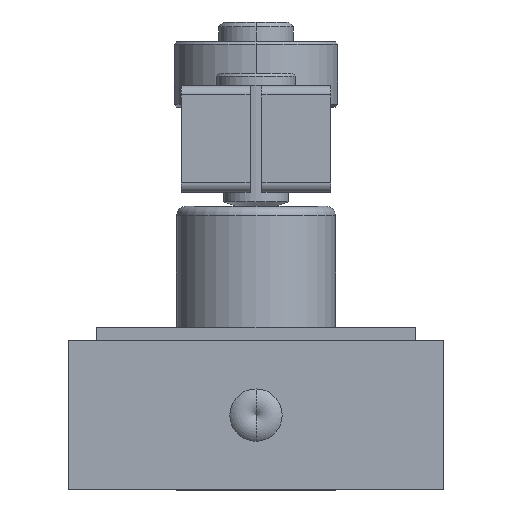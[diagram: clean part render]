
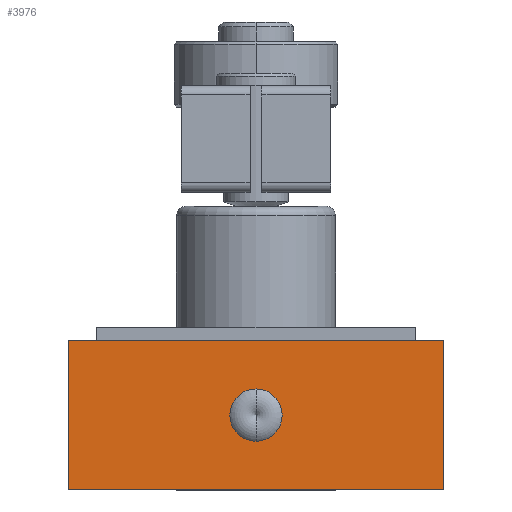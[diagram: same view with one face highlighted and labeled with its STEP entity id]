
A CAD part, front view. The second image highlights one B-rep face of the part: STEP entity #3976.
In plain terms, the highlighted planar face has unit normal (0, -1, 0).
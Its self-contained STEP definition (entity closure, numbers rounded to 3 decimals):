
#3054 = VERTEX_POINT ( 'NONE', #16767 ) ;
#3075 = VERTEX_POINT ( 'NONE', #16868 ) ;
#3775 = EDGE_CURVE ( 'NONE', #3075, #3054, #17038, .T. ) ;
#3860 = VERTEX_POINT ( 'NONE', #17113 ) ;
#3862 = EDGE_CURVE ( 'NONE', #3860, #3867, #17112, .T. ) ;
#3867 = VERTEX_POINT ( 'NONE', #17018 ) ;
#3976 = ADVANCED_FACE ( 'NONE', ( #17308, #17307 ), #17348, .T. ) ;
#3978 = EDGE_LOOP ( 'NONE', ( #3979, #3981, #4030, #4034 ) ) ;
#3979 = ORIENTED_EDGE ( 'NONE', *, *, #3862, .F. ) ;
#3981 = ORIENTED_EDGE ( 'NONE', *, *, #4027, .F. ) ;
#4027 = EDGE_CURVE ( 'NONE', #4029, #3860, #17234, .T. ) ;
#4029 = VERTEX_POINT ( 'NONE', #17230 ) ;
#4030 = ORIENTED_EDGE ( 'NONE', *, *, #4031, .T. ) ;
#4031 = EDGE_CURVE ( 'NONE', #4029, #4032, #17229, .T. ) ;
#4032 = VERTEX_POINT ( 'NONE', #17225 ) ;
#4034 = ORIENTED_EDGE ( 'NONE', *, *, #4036, .T. ) ;
#4036 = EDGE_CURVE ( 'NONE', #4032, #3867, #17223, .T. ) ;
#4042 = EDGE_LOOP ( 'NONE', ( #4043, #4044 ) ) ;
#4043 = ORIENTED_EDGE ( 'NONE', *, *, #3775, .T. ) ;
#4044 = ORIENTED_EDGE ( 'NONE', *, *, #4045, .T. ) ;
#4045 = EDGE_CURVE ( 'NONE', #3054, #3075, #17216, .T. ) ;
#16767 = CARTESIAN_POINT ( 'NONE',  ( 0., -51.5, -10.798 ) ) ;
#16868 = CARTESIAN_POINT ( 'NONE',  ( 0., -51.5, -5.204 ) ) ;
#17018 = CARTESIAN_POINT ( 'NONE',  ( 20.035, -51.5, 0. ) ) ;
#17035 = DIRECTION ( 'NONE',  ( 0., 0., 1. ) ) ;
#17036 = DIRECTION ( 'NONE',  ( 0., 1., 0. ) ) ;
#17037 = AXIS2_PLACEMENT_3D ( 'NONE', #17043, #17036, #17035 ) ;
#17038 = CIRCLE ( 'NONE', #17037, 2.797 ) ;
#17043 = CARTESIAN_POINT ( 'NONE',  ( 0., -51.5, -8.001 ) ) ;
#17109 = DIRECTION ( 'NONE',  ( 1., 0., 0. ) ) ;
#17110 = VECTOR ( 'NONE', #17109, 1000. ) ;
#17111 = CARTESIAN_POINT ( 'NONE',  ( -20.035, -51.5, 0. ) ) ;
#17112 = LINE ( 'NONE', #17111, #17110 ) ;
#17113 = CARTESIAN_POINT ( 'NONE',  ( -20.035, -51.5, 0. ) ) ;
#17213 = DIRECTION ( 'NONE',  ( 0., 0., 1. ) ) ;
#17214 = DIRECTION ( 'NONE',  ( 0., 1., 0. ) ) ;
#17215 = AXIS2_PLACEMENT_3D ( 'NONE', #17224, #17214, #17213 ) ;
#17216 = CIRCLE ( 'NONE', #17215, 2.797 ) ;
#17220 = DIRECTION ( 'NONE',  ( 0., 0., 1. ) ) ;
#17221 = VECTOR ( 'NONE', #17220, 1000. ) ;
#17222 = CARTESIAN_POINT ( 'NONE',  ( 20.035, -51.5, -16.002 ) ) ;
#17223 = LINE ( 'NONE', #17222, #17221 ) ;
#17224 = CARTESIAN_POINT ( 'NONE',  ( 0., -51.5, -8.001 ) ) ;
#17225 = CARTESIAN_POINT ( 'NONE',  ( 20.035, -51.5, -16.002 ) ) ;
#17226 = DIRECTION ( 'NONE',  ( 1., 0., 0. ) ) ;
#17227 = VECTOR ( 'NONE', #17226, 1000. ) ;
#17228 = CARTESIAN_POINT ( 'NONE',  ( -20.035, -51.5, -16.002 ) ) ;
#17229 = LINE ( 'NONE', #17228, #17227 ) ;
#17230 = CARTESIAN_POINT ( 'NONE',  ( -20.035, -51.5, -16.002 ) ) ;
#17231 = DIRECTION ( 'NONE',  ( 0., 0., 1. ) ) ;
#17232 = VECTOR ( 'NONE', #17231, 1000. ) ;
#17233 = CARTESIAN_POINT ( 'NONE',  ( -20.035, -51.5, -16.002 ) ) ;
#17234 = LINE ( 'NONE', #17233, #17232 ) ;
#17307 = FACE_BOUND ( 'NONE', #4042, .T. ) ;
#17308 = FACE_OUTER_BOUND ( 'NONE', #3978, .T. ) ;
#17343 = DIRECTION ( 'NONE',  ( 0., 0., -1. ) ) ;
#17344 = DIRECTION ( 'NONE',  ( 0., -1., 0. ) ) ;
#17345 = CARTESIAN_POINT ( 'NONE',  ( -20.035, -51.5, -16.002 ) ) ;
#17346 = AXIS2_PLACEMENT_3D ( 'NONE', #17345, #17344, #17343 ) ;
#17348 = PLANE ( 'NONE',  #17346 ) ;
